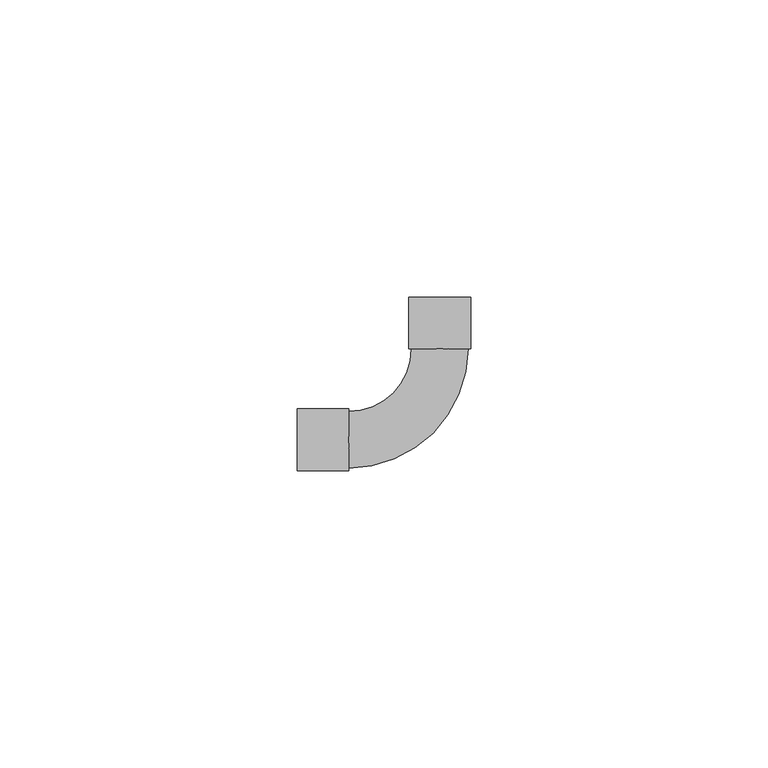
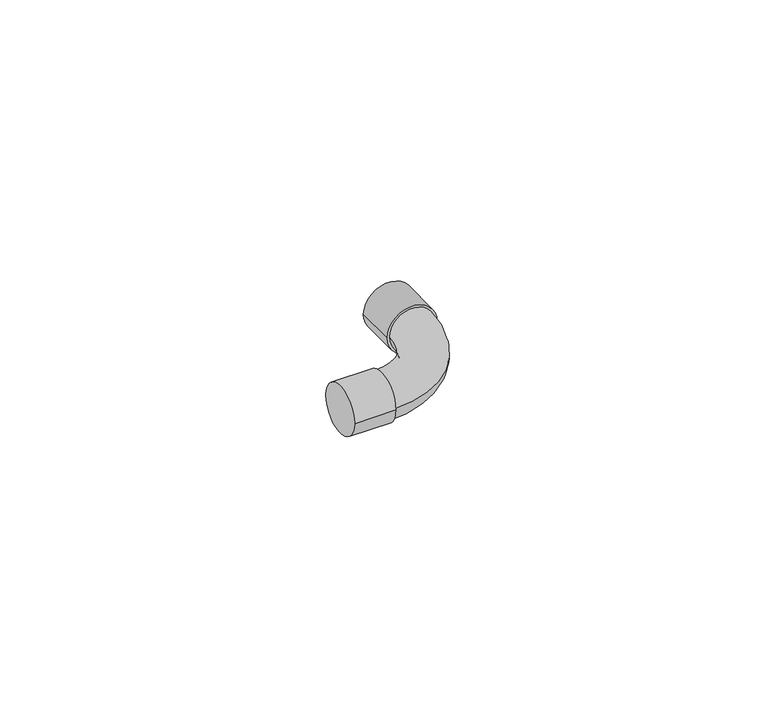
"""IFC4 building model written with IfcOpenShell, lengths in millimetres: pipe fitting geometry, Cotovelo - Soldado - CU : Padrão."""

from ifc_helpers import new_model, si_unit, point, frame, origin, place, context, project, spatial, circle_curve, ellipse_curve, trimmed, source, transform, mapped, element, save
from ifc_brep_helpers import plane_surface, cylinder_surface, revolved_surface, advanced_brep


def pipe_fitting_b9714969(model_context):
    return source(origin(), model_context, "Body", "AdvancedBrep", [
        advanced_brep(
        [(-4.7598682, 15.3512409, 0.0), (-15.3512, 4.76, 0.0), (-15.3512, -4.76, 0.0), (4.7601318, 15.3511591, 0.0), (-24.0256, -5.2552, 0.0), (-24.0256, 5.2552, 0.0), (-15.3512, -5.2552, 0.0), (-15.3512, 5.2552, 0.0), (-5.2549937, 24.0256451, 0.0), (5.2554063, 24.0255549, 0.0), (-5.2550682, 15.3512451, 0.0), (5.2553318, 15.3511549, 0.0)],
        [
            (0, 1, circle_curve(frame((-15.3512, 15.3513318, 0.0), z_axis=(0.0, 0.0, -1.0), x_axis=(0.0, -1.0, 0.0)), 10.5913318)),
            (1, 2, circle_curve(frame((-15.3512, 0.0, 0.0), z_axis=(1.0, 0.0, 0.0), x_axis=(0.0, 1.0, 0.0)), 4.76)),
            (2, 3, circle_curve(frame((-15.3512, 15.3513318, 0.0), z_axis=(0.0, 0.0, 1.0), x_axis=(0.0, -1.0, 0.0)), 20.1113318)),
            (3, 0, circle_curve(frame((0.0001318, 15.3512, 0.0), z_axis=(-8.588139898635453e-06, -0.9999999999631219, 0.0), x_axis=(-0.9999999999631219, 8.588139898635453e-06, 0.0)), 4.76)),
            (0, 3, circle_curve(frame((0.0001318, 15.3512, 0.0), z_axis=(-8.588139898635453e-06, -0.9999999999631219, 0.0), x_axis=(-0.9999999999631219, 8.588139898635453e-06, 0.0)), 4.76)),
            (2, 1, circle_curve(frame((-15.3512, 0.0, 0.0), z_axis=(1.0, 0.0, 0.0), x_axis=(0.0, 1.0, 0.0)), 4.76)),
            (4, 5, circle_curve(frame((-24.0256, 0.0, 0.0), z_axis=(-1.0, 0.0, 0.0), x_axis=(0.0, 1.0, 0.0)), 5.2552)),
            (5, 4, circle_curve(frame((-24.0256, 0.0, 0.0), z_axis=(-1.0, 0.0, 0.0), x_axis=(0.0, 1.0, 0.0)), 5.2552)),
            (6, 7, circle_curve(frame((-15.3512, 0.0, 0.0), z_axis=(1.0, 0.0, 0.0), x_axis=(0.0, 1.0, 0.0)), 5.2552)),
            (7, 6, circle_curve(frame((-15.3512, 0.0, 0.0), z_axis=(1.0, 0.0, 0.0), x_axis=(0.0, 1.0, 0.0)), 5.2552)),
            (4, 6),
            (7, 5),
            (8, 9, circle_curve(frame((0.0002063, 24.0256, 0.0), z_axis=(8.588139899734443e-06, 0.9999999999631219, 0.0), x_axis=(0.9999999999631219, -8.588139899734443e-06, 0.0)), 5.2552)),
            (9, 8, circle_curve(frame((0.0002063, 24.0256, 0.0), z_axis=(8.588139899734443e-06, 0.9999999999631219, 0.0), x_axis=(0.9999999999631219, -8.588139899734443e-06, 0.0)), 5.2552)),
            (10, 11, circle_curve(frame((0.0001318, 15.3512, 0.0), z_axis=(-8.588139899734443e-06, -0.9999999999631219, 0.0), x_axis=(0.9999999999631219, -8.588139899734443e-06, 0.0)), 5.2552)),
            (11, 10, circle_curve(frame((0.0001318, 15.3512, 0.0), z_axis=(-8.588139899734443e-06, -0.9999999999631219, 0.0), x_axis=(0.9999999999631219, -8.588139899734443e-06, 0.0)), 5.2552)),
            (8, 10),
            (11, 9),
        ],
        [
            revolved_surface(trimmed(ellipse_curve(frame((-15.3512, 0.0, 0.0), z_axis=(-1.0, 0.0, 0.0), x_axis=(0.0, 1.0, 0.0)), 4.76, 4.76), [point((-15.3512, -4.76, 0.0))], [point((-15.3512, 4.76, 0.0))], True, "CARTESIAN"), (-15.3512, 15.3513318, 0.0), (0.0, 0.0, 1.0)),
            revolved_surface(trimmed(ellipse_curve(frame((-15.3512, 0.0, 0.0), z_axis=(-1.0, 0.0, 0.0), x_axis=(0.0, 1.0, 0.0)), 4.76, 4.76), [point((-15.3512, 4.76, 0.0))], [point((-15.3512, -4.76, 0.0))], True, "CARTESIAN"), (-15.3512, 15.3513318, 0.0), (0.0, 0.0, 1.0)),
            plane_surface(frame((-24.0256, 0.0, 0.0), z_axis=(-1.0, 0.0, 0.0), x_axis=(0.0, 0.0, 1.0))),
            plane_surface(frame((-15.3512, 0.0, 0.0), z_axis=(1.0, 0.0, 0.0), x_axis=(0.0, 0.0, 1.0))),
            cylinder_surface(frame((-24.0256, 0.0, 0.0), z_axis=(-1.0, 0.0, 0.0), x_axis=(0.0, 1.0, 0.0)), 5.2552),
            plane_surface(frame((0.0002063, 24.0256, 0.0), z_axis=(8.588139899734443e-06, 0.9999999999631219, 0.0), x_axis=(0.0, 0.0, 1.0))),
            plane_surface(frame((0.0001318, 15.3512, 0.0), z_axis=(-8.588139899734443e-06, -0.9999999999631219, 0.0), x_axis=(0.0, 0.0, 1.0))),
            cylinder_surface(frame((0.0002063, 24.0256, 0.0), z_axis=(8.588139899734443e-06, 0.9999999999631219, 0.0), x_axis=(0.9999999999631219, -8.588139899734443e-06, 0.0)), 5.2552),
        ],
        [
            (0, [[1, 2, 3, 4]]),
            (1, [[-1, 5, -3, 6]]),
            (2, [[7, 8]]),
            (3, [[9, 10], [-2, -6]]),
            (4, [[-7, 11, -10, 12]]),
            (4, [[-8, -12, -9, -11]]),
            (5, [[13, 14]]),
            (6, [[15, 16], [-4, -5]]),
            (7, [[-13, 17, -16, 18]]),
            (7, [[-14, -18, -15, -17]]),
        ],
    ),
    ])


if __name__ == "__main__":
    model = new_model("IFC4")
    model_context = context("Model", 3, world=origin())
    ifc_project = project(units=[si_unit("LENGTHUNIT", "METRE", prefix="MILLI")], contexts=[model_context])
    site = spatial("IfcSite", under=ifc_project)
    building = spatial("IfcBuilding", under=site)
    placement = place(None, origin())
    pipe_fitting_shape = pipe_fitting_b9714969(model_context)
    element("IfcPipeFitting", 1, ObjectType="Cotovelo - Soldado - CU : Padrão", at=placement, inside=building, context=model_context, shape_type="MappedRepresentation", body=[
        mapped(pipe_fitting_shape, transform((0.0, 0.0, 0.0), x_axis=(1.0, 0.0, 0.0), y_axis=(0.0, 1.0, 0.0), z_axis=(0.0, 0.0, 1.0))),
    ])
    save(model, "model.ifc")
